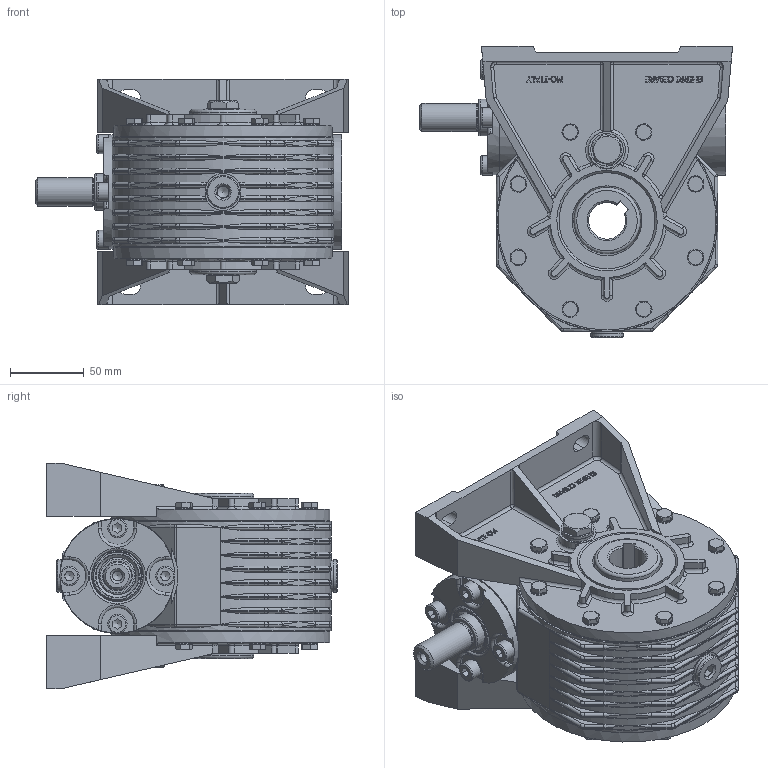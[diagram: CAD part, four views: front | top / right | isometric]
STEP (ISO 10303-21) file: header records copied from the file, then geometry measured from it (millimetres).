
FILE_DESCRIPTION((''),'2;1');
FILE_NAME('Y:\Archivi Inventor\Prog_01\GRAND_30\Figurini\MRV30 sito\RV30\RV30_P3.stp','2013-02-11T09:29:46',('tech3'),(''),'Autodesk Inventor 2013','Autodesk Inventor 2013','');
FILE_SCHEMA(('AUTOMOTIVE_DESIGN { 1 0 10303 214 1 1 1 1 }'));
Length unit declared in the file: millimetre
Products named in the file (16): RV30; 0103001-A2 fig; 0103008.A1 fig F=25; PARAOLIO 45x65x10; RCA_52x7; Guarnizione 3_8 GAS; Tappo 3_8 GAS_esagn_incsst; 0103010-A0 fig; 0103029; DIN EN 24017 M6 x 20; Tappo3_8 GAS; 0103028; UNI 5931 M 8 x  25; 0103011-A1_fig; 0103012-A1; 25_35_8
Assembly tree (41 placements, depth 2):
  RV30
    0103001-A2 fig
    0103008.A1 fig F=25
    PARAOLIO 45x65x10  x2
    RCA_52x7
    Guarnizione 3_8 GAS  x4
    Tappo 3_8 GAS_esagn_incsst  x2
    0103010-A0 fig  x2
    0103029  x2
    DIN EN 24017 M6 x 20  x16
    Tappo3_8 GAS  x2
    0103028
    UNI 5931 M 8 x  25  x4
    0103011-A1_fig
    0103012-A1
    25_35_8
Bounding box: 212 x 197.07 x 152.7 mm (x, y, z)
Volume: 2213381.6 mm3; surface area: 435134.7 mm2
Topology: 41 solids, 44 shells, 2092 faces, 5073 edges, 3139 vertices
Faces by surface type: plane 1011, cylinder 524, bspline 240, cone 163, torus 126, sphere 28
Full cylindrical faces by diameter (mm): 2 x2, 4.917 x16, 6 x16, 6.5 x32, 6.647 x5, 8 x6, 8.5 x8, 8.88 x16, 11 x16, 13 x4, 13.046 x2, 14.95 x4, 16.3 x4, 16.5 x2, 18.4 x1, 19 x1, 22 x8, 25 x5, 27.881 x1, 32.232 x1, 35 x2, 43 x1, 45 x3, 45.76 x1, 50.881 x2, 52 x6, 55 x1, 60.5 x2, 65 x4, 75 x2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
Entity records: 40816 total; most frequent: CARTESIAN_POINT 12406, DIRECTION 5564, ORIENTED_EDGE 5512, EDGE_CURVE 2756, AXIS2_PLACEMENT_3D 2097, VERTEX_POINT 1803, EDGE_LOOP 1528, VECTOR 1370
